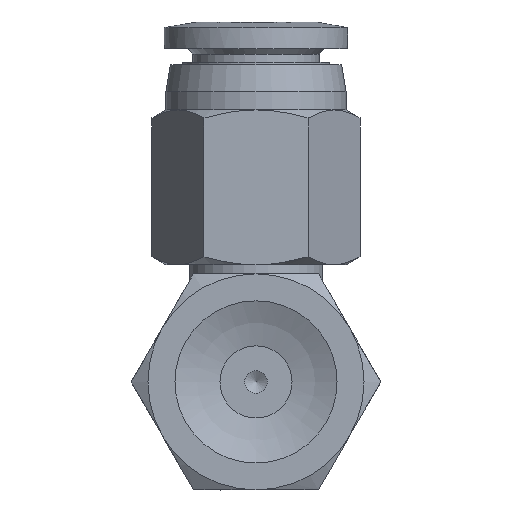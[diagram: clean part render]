
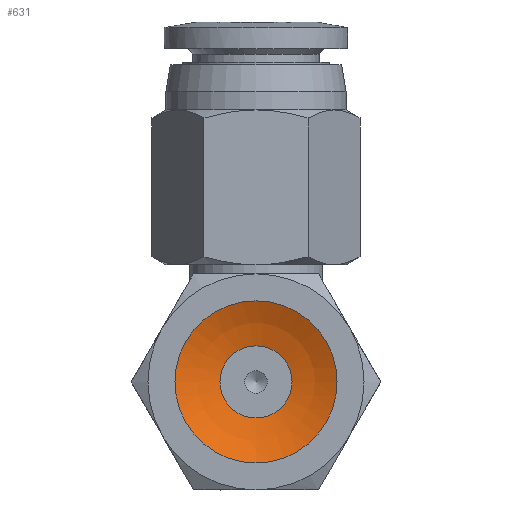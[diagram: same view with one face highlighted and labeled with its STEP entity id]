
A CAD part, front view. The second image highlights one B-rep face of the part: STEP entity #631.
In plain terms, the highlighted spherical face has radius 10.203 mm.
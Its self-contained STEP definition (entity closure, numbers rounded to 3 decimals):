
#631=ADVANCED_FACE('',(#986,#987),#988,.F.);
#986=FACE_OUTER_BOUND('',#1450,.T.);
#987=FACE_OUTER_BOUND('',#1451,.T.);
#988=SPHERICAL_SURFACE('',#1452,10.203);
#1450=EDGE_LOOP('',(#2620));
#1451=EDGE_LOOP('',(#2621));
#1452=AXIS2_PLACEMENT_3D('',#2622,#2623,#2624);
#2620=ORIENTED_EDGE('',*,*,#3233,.T.);
#2621=ORIENTED_EDGE('',*,*,#3234,.F.);
#2622=CARTESIAN_POINT('',(0.,-9.157,0.));
#2623=DIRECTION('',(0.0,-1.0,0.));
#2624=DIRECTION('',(1.0,0.0,0.0));
#3233=EDGE_CURVE('',#3693,#3693,#3694,.T.);
#3234=EDGE_CURVE('',#3695,#3695,#3696,.T.);
#3693=VERTEX_POINT('',#4809);
#3694=CIRCLE('',#4810,4.5);
#3695=VERTEX_POINT('',#4811);
#3696=CIRCLE('',#4812,2.);
#4809=CARTESIAN_POINT('',(0.0,0.,-4.5));
#4810=AXIS2_PLACEMENT_3D('',#5624,#5625,#5626);
#4811=CARTESIAN_POINT('',(0.0,0.848,-2.));
#4812=AXIS2_PLACEMENT_3D('',#5627,#5628,#5629);
#5624=CARTESIAN_POINT('',(0.0,0.,0.0));
#5625=DIRECTION('',(0.0,-1.0,0.));
#5626=DIRECTION('',(0.0,0.,-1.0));
#5627=CARTESIAN_POINT('',(0.0,0.848,0.0));
#5628=DIRECTION('',(0.0,-1.0,0.));
#5629=DIRECTION('',(0.0,0.,-1.0));
